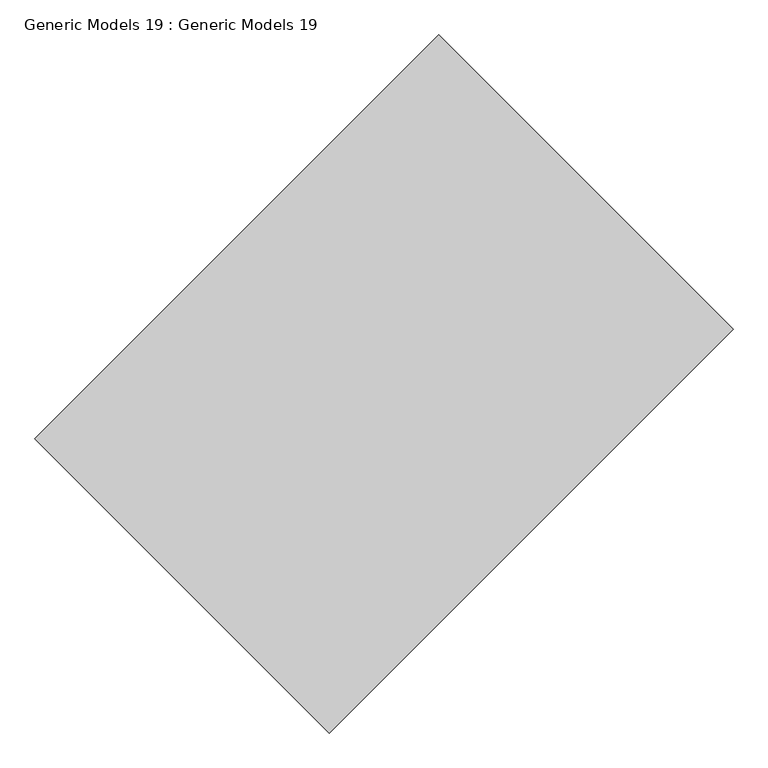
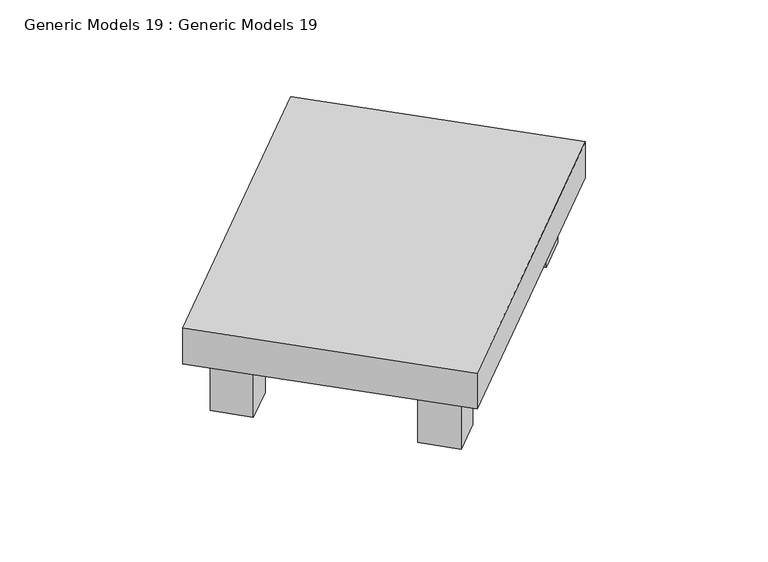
"""IFC4 building model written with IfcOpenShell, lengths in millimetres: proxy geometry, Generic Models 19 : Generic Models 19."""

from ifc_helpers import new_model, si_unit, frame, origin, place, context, project, spatial, polyline, outline, extrude, source, transform, mapped, element, save


def generic_models_19_generic_models_19_1280a4e2(model_context):
    return source(origin(), model_context, "Body", "SweptSolid", [
        extrude(outline(polyline([(11076.9908695, 3242.24784), (12038.6560919, 2280.5826176), (10719.4172764, 961.343802), (9757.7520539, 1923.0090245), (11076.9908695, 3242.24784)])), frame((0.0, 0.0, 10326.4449218), z_axis=(0.0, 0.0, 1.0), x_axis=(1.0, 0.0, 0.0)), (0.0, 0.0, 1.0), 195.6738467),
        extrude(outline(polyline([(10860.8386326, 1244.1865145), (10719.4172764, 1102.7651583), (10577.9959201, 1244.1865145), (10719.4172764, 1385.6078708), (10860.8386326, 1244.1865145)])), frame((0.0, 0.0, 10022.4063931), z_axis=(0.0, 0.0, 1.0), x_axis=(1.0, 0.0, 0.0)), (0.0, 0.0, 1.0), 304.0385287),
        extrude(outline(polyline([(10040.5947664, 2064.4303807), (10182.0161227, 1923.0090245), (10040.5947664, 1781.5876682), (9899.1734102, 1923.0090245), (10040.5947664, 2064.4303807)])), frame((0.0, 0.0, 10022.4063931), z_axis=(0.0, 0.0, 1.0), x_axis=(1.0, 0.0, 0.0)), (0.0, 0.0, 1.0), 304.0385287),
        extrude(outline(polyline([(11218.4122257, 2959.4051275), (11076.9908695, 2817.9837713), (10935.5695132, 2959.4051275), (11076.9908695, 3100.8264838), (11218.4122257, 2959.4051275)])), frame((0.0, 0.0, 10022.4063931), z_axis=(0.0, 0.0, 1.0), x_axis=(1.0, 0.0, 0.0)), (0.0, 0.0, 1.0), 304.0385287),
        extrude(outline(polyline([(11755.8133794, 2139.1612613), (11614.3920232, 2280.5826176), (11755.8133794, 2422.0039738), (11897.2347357, 2280.5826176), (11755.8133794, 2139.1612613)])), frame((0.0, 0.0, 10022.4063931), z_axis=(0.0, 0.0, 1.0), x_axis=(1.0, 0.0, 0.0)), (0.0, 0.0, 1.0), 304.0385287),
    ])


if __name__ == "__main__":
    model = new_model("IFC4")
    model_context = context("Model", 3, world=origin())
    ifc_project = project(units=[si_unit("LENGTHUNIT", "METRE", prefix="MILLI")], contexts=[model_context])
    site = spatial("IfcSite", under=ifc_project)
    building = spatial("IfcBuilding", under=site)
    placement = place(None, origin())
    generic_models_19_generic_models_19_shape = generic_models_19_generic_models_19_1280a4e2(model_context)
    element("IfcBuildingElementProxy", 1, Name="Generic Models 19 : Generic Models 19", ObjectType="Generic Models 19 : Generic Models 19", at=placement, inside=building, context=model_context, shape_type="MappedRepresentation", body=[
        mapped(generic_models_19_generic_models_19_shape, transform((0.0, 0.0, 0.0), x_axis=(1.0, 0.0, 0.0), y_axis=(0.0, 1.0, 0.0), z_axis=(0.0, 0.0, 1.0))),
    ])
    save(model, "model.ifc")
